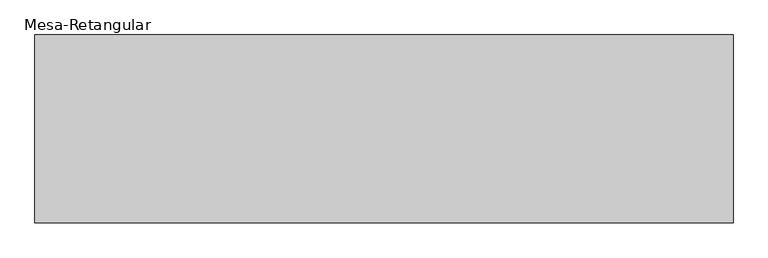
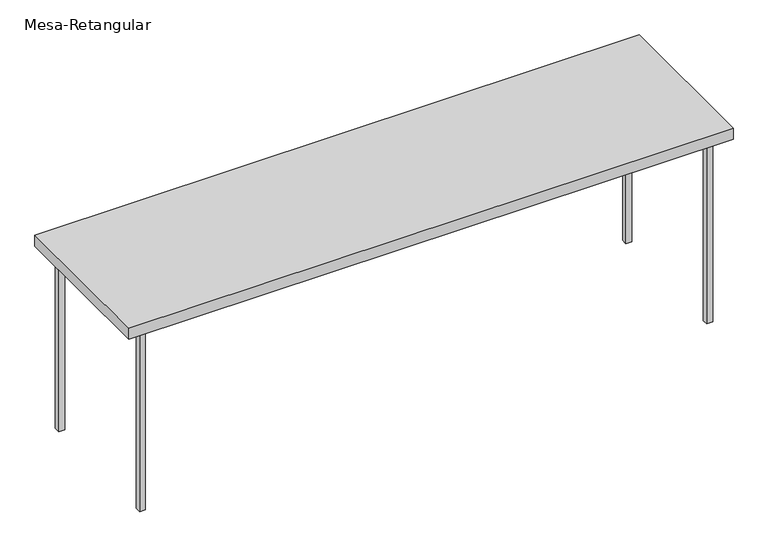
"""IFC4 building model written with IfcOpenShell, lengths in millimetres: furniture geometry, Mesa-Retangular : Mesa aço inox 260x70cm 88AL."""

from ifc_helpers import new_model, si_unit, frame, origin, origin_with_axes, place, context, project, spatial, polyline, outline, extrude, source, transform, mapped, element, save


def mesa_retangular_37e3e5f2(model_context):
    return source(origin(), model_context, "Body", "SweptSolid", [
        extrude(outline(polyline([(-1232.8946305, 288.2145104), (-1232.8946305, 313.6145104), (-1207.4946305, 313.6145104), (-1207.4946305, 288.2145104), (-1232.8946305, 288.2145104)])), origin_with_axes(), (0.0, 0.0, 1.0), 829.2),
        extrude(outline(polyline([(-1232.8946305, -288.2145104), (-1207.4946305, -288.2145104), (-1207.4946305, -313.6145104), (-1232.8946305, -313.6145104), (-1232.8946305, -288.2145104)])), origin_with_axes(), (0.0, 0.0, 1.0), 829.2),
        extrude(outline(polyline([(1232.8946305, 288.2145104), (1207.4946305, 288.2145104), (1207.4946305, 313.6145104), (1232.8946305, 313.6145104), (1232.8946305, 288.2145104)])), origin_with_axes(), (0.0, 0.0, 1.0), 829.2),
        extrude(outline(polyline([(1232.8946305, -288.2145104), (1232.8946305, -313.6145104), (1207.4946305, -313.6145104), (1207.4946305, -288.2145104), (1232.8946305, -288.2145104)])), origin_with_axes(), (0.0, 0.0, 1.0), 829.2),
        extrude(outline(polyline([(1300.0, 350.0), (1300.0, -350.0), (-1300.0, -350.0), (-1300.0, 350.0), (1300.0, 350.0)])), frame((0.0, 0.0, 829.2), z_axis=(0.0, 0.0, 1.0), x_axis=(1.0, 0.0, 0.0)), (0.0, 0.0, 1.0), 50.8),
    ])


if __name__ == "__main__":
    model = new_model("IFC4")
    model_context = context("Model", 3, world=origin())
    ifc_project = project(units=[si_unit("LENGTHUNIT", "METRE", prefix="MILLI")], contexts=[model_context])
    site = spatial("IfcSite", under=ifc_project)
    building = spatial("IfcBuilding", under=site)
    placement = place(None, origin())
    mesa_retangular_shape = mesa_retangular_37e3e5f2(model_context)
    element("IfcFurniture", 1, ObjectType="Mesa-Retangular : Mesa aço inox 260x70cm 88AL", at=placement, inside=building, context=model_context, shape_type="MappedRepresentation", body=[
        mapped(mesa_retangular_shape, transform((0.0, 0.0, 0.0), x_axis=(1.0, 0.0, 0.0), y_axis=(0.0, 1.0, 0.0), z_axis=(0.0, 0.0, 1.0))),
    ])
    save(model, "model.ifc")
